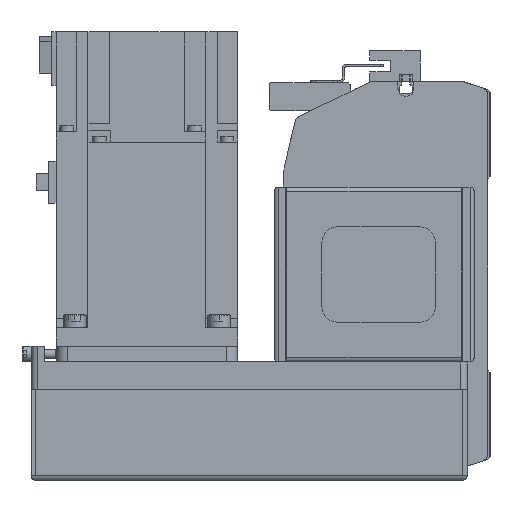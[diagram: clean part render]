
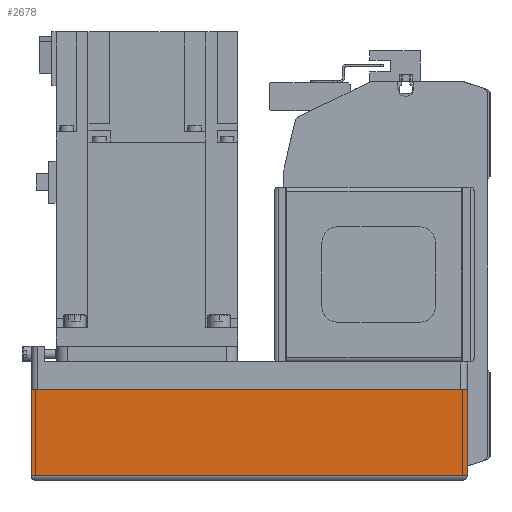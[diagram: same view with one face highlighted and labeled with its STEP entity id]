
A CAD part, left-side view. The second image highlights one B-rep face of the part: STEP entity #2678.
In plain terms, the highlighted planar face has unit normal (-1, 0, 0) as drawn and (0, -1, 0) by its records, which use the part's own axes.
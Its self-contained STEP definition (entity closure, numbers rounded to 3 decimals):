
#2678 = ADVANCED_FACE( '', ( #5627 ), #5628, .T. );
#5627 = FACE_OUTER_BOUND( '', #8749, .T. );
#5628 = PLANE( '', #8750 );
#8749 = EDGE_LOOP( '', ( #16362, #16363, #16364, #16365 ) );
#8750 = AXIS2_PLACEMENT_3D( '', #16366, #16367, #16368 );
#16362 = ORIENTED_EDGE( '', *, *, #20902, .F. );
#16363 = ORIENTED_EDGE( '', *, *, #19482, .F. );
#16364 = ORIENTED_EDGE( '', *, *, #20791, .T. );
#16365 = ORIENTED_EDGE( '', *, *, #20149, .T. );
#16366 = CARTESIAN_POINT( '', ( -192., -40., -12.1 ) );
#16367 = DIRECTION( '', ( 0., -1., 0. ) );
#16368 = DIRECTION( '', ( 0., 0., -1. ) );
#19482 = EDGE_CURVE( '', #21920, #22521, #23897, .T. );
#20149 = EDGE_CURVE( '', #24887, #24889, #24891, .T. );
#20791 = EDGE_CURVE( '', #21920, #24887, #25720, .T. );
#20902 = EDGE_CURVE( '', #22521, #24889, #25849, .T. );
#21920 = VERTEX_POINT( '', #27183 );
#22521 = VERTEX_POINT( '', #28018 );
#23897 = LINE( '', #30105, #30106 );
#24887 = VERTEX_POINT( '', #31498 );
#24889 = VERTEX_POINT( '', #31500 );
#24891 = LINE( '', #31502, #31503 );
#25720 = LINE( '', #32665, #32666 );
#25849 = LINE( '', #32844, #32845 );
#27183 = CARTESIAN_POINT( '', ( -192., -40., -12.1 ) );
#28018 = CARTESIAN_POINT( '', ( 0., -40., -12.1 ) );
#30105 = CARTESIAN_POINT( '', ( -192., -40., -12.1 ) );
#30106 = VECTOR( '', #35353, 1000. );
#31498 = CARTESIAN_POINT( '', ( -192., -40., -50. ) );
#31500 = CARTESIAN_POINT( '', ( 0., -40., -50. ) );
#31502 = CARTESIAN_POINT( '', ( -192., -40., -50. ) );
#31503 = VECTOR( '', #36200, 1000. );
#32665 = CARTESIAN_POINT( '', ( -192., -40., -12.1 ) );
#32666 = VECTOR( '', #36901, 1000. );
#32844 = CARTESIAN_POINT( '', ( 0., -40., -12.1 ) );
#32845 = VECTOR( '', #36991, 1000. );
#35353 = DIRECTION( '', ( 1., 0., 0. ) );
#36200 = DIRECTION( '', ( 1., 0., 0. ) );
#36901 = DIRECTION( '', ( 0., 0., -1. ) );
#36991 = DIRECTION( '', ( 0., 0., -1. ) );
